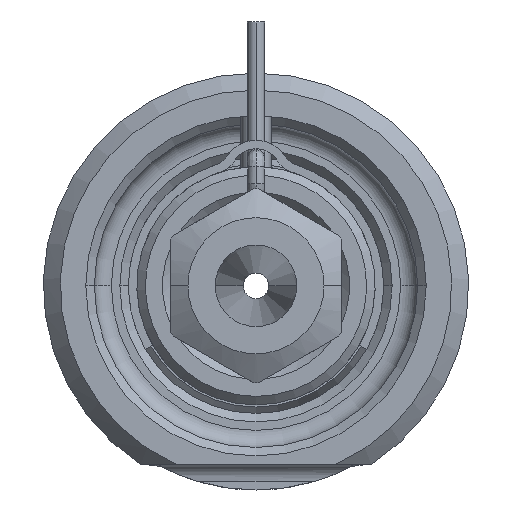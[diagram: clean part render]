
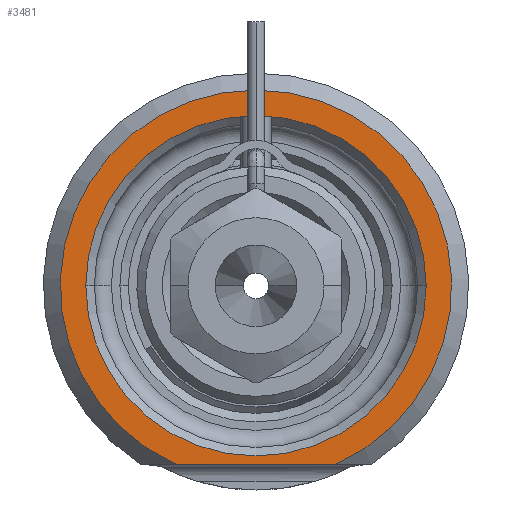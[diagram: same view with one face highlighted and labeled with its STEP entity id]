
A CAD part, front view. The second image highlights one B-rep face of the part: STEP entity #3481.
In plain terms, the highlighted planar face has unit normal (0, -1, 0).
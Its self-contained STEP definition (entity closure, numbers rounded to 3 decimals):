
#598=DIRECTION('',(1.,0.,0.));
#599=VECTOR('',#598,9.381);
#600=CARTESIAN_POINT('',(-4.69,0.,-10.5));
#601=LINE('',#600,#599);
#602=CARTESIAN_POINT('',(0.,0.,0.));
#603=DIRECTION('',(0.,1.,0.));
#604=DIRECTION('',(-1.,0.,0.));
#605=AXIS2_PLACEMENT_3D('',#602,#603,#604);
#607=CARTESIAN_POINT('',(0.,0.,0.));
#608=DIRECTION('',(0.,1.,0.));
#609=DIRECTION('',(1.,0.,0.));
#610=AXIS2_PLACEMENT_3D('',#607,#608,#609);
#681=CARTESIAN_POINT('',(0.,0.,0.));
#682=DIRECTION('',(0.,-1.,0.));
#683=DIRECTION('',(0.408,0.,-0.913));
#684=AXIS2_PLACEMENT_3D('',#681,#682,#683);
#2336=CARTESIAN_POINT('',(-10.,0.,0.));
#2337=CARTESIAN_POINT('',(10.,0.,0.));
#2338=VERTEX_POINT('',#2336);
#2339=VERTEX_POINT('',#2337);
#2394=CARTESIAN_POINT('',(-4.69,0.,-10.5));
#2395=CARTESIAN_POINT('',(4.69,0.,-10.5));
#2396=VERTEX_POINT('',#2394);
#2397=VERTEX_POINT('',#2395);
#3465=CARTESIAN_POINT('',(0.,0.,0.));
#3466=DIRECTION('',(0.,-1.,0.));
#3467=DIRECTION('',(1.,0.,0.));
#3468=AXIS2_PLACEMENT_3D('',#3465,#3466,#3467);
#3469=PLANE('',#3468);
#3471=ORIENTED_EDGE('',*,*,#3470,.F.);
#3473=ORIENTED_EDGE('',*,*,#3472,.F.);
#3474=EDGE_LOOP('',(#3471,#3473));
#3475=FACE_OUTER_BOUND('',#3474,.F.);
#3476=ORIENTED_EDGE('',*,*,#3455,.F.);
#3478=ORIENTED_EDGE('',*,*,#3477,.F.);
#3479=EDGE_LOOP('',(#3476,#3478));
#3480=FACE_BOUND('',#3479,.F.);
#3481=ADVANCED_FACE('',(#3475,#3480),#3469,.T.);
#606=CIRCLE('',#605,10.);
#611=CIRCLE('',#610,10.);
#685=CIRCLE('',#684,11.5);
#3455=EDGE_CURVE('',#2338,#2339,#606,.T.);
#3470=EDGE_CURVE('',#2396,#2397,#601,.T.);
#3472=EDGE_CURVE('',#2397,#2396,#685,.T.);
#3477=EDGE_CURVE('',#2339,#2338,#611,.T.);
